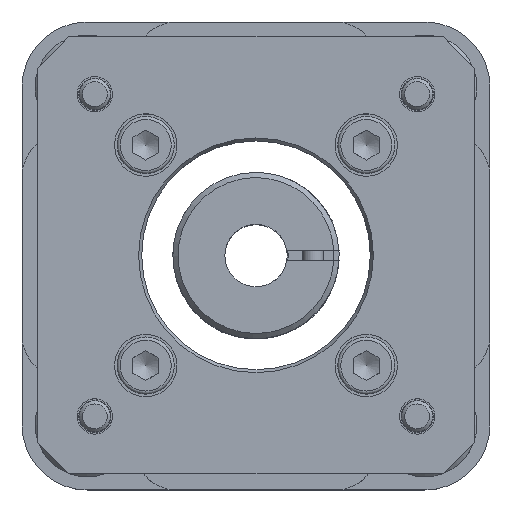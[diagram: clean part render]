
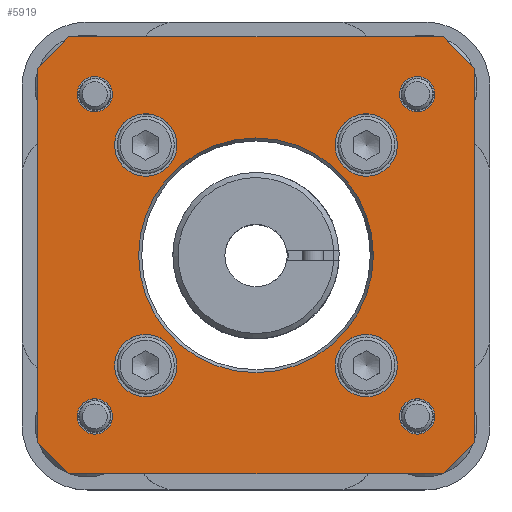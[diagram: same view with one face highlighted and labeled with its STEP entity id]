
A CAD part, top view. The second image highlights one B-rep face of the part: STEP entity #5919.
In plain terms, the highlighted planar face has unit normal (0, 0, 1) as drawn and (0, 0, -1) by its records, which use the part's own axes.
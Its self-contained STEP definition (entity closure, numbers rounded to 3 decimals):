
#237=PLANE($,#6531);
#480=LINE($,#9853,#848);
#484=LINE($,#9860,#852);
#487=LINE($,#9866,#855);
#490=LINE($,#9872,#858);
#493=LINE($,#9878,#861);
#496=LINE($,#9884,#864);
#499=LINE($,#9890,#867);
#501=LINE($,#9893,#869);
#848=VECTOR($,#7839,4.243);
#852=VECTOR($,#7845,36.);
#855=VECTOR($,#7850,4.243);
#858=VECTOR($,#7855,36.);
#861=VECTOR($,#7860,4.243);
#864=VECTOR($,#7865,36.);
#867=VECTOR($,#7870,4.243);
#869=VECTOR($,#7874,36.);
#1310=FACE_BOUND($,#2016,.T.);
#1311=FACE_BOUND($,#2017,.T.);
#1312=FACE_BOUND($,#2018,.T.);
#1313=FACE_BOUND($,#2019,.T.);
#1314=FACE_BOUND($,#2020,.T.);
#1315=FACE_BOUND($,#2021,.T.);
#1316=FACE_BOUND($,#2022,.T.);
#1317=FACE_BOUND($,#2023,.T.);
#1318=FACE_BOUND($,#2024,.T.);
#1319=FACE_BOUND($,#2025,.T.);
#2016=EDGE_LOOP($,(#4833));
#2017=EDGE_LOOP($,(#4834));
#2018=EDGE_LOOP($,(#4835));
#2019=EDGE_LOOP($,(#4836));
#2020=EDGE_LOOP($,(#4837));
#2021=EDGE_LOOP($,(#4838));
#2022=EDGE_LOOP($,(#4839));
#2023=EDGE_LOOP($,(#4840));
#2024=EDGE_LOOP($,(#4841));
#2025=EDGE_LOOP($,(#4842,#4843,#4844,#4845,#4846,#4847,#4848,#4849));
#2465=CIRCLE($,#6449,11.289);
#2473=CIRCLE($,#6462,3.);
#2475=CIRCLE($,#6466,3.);
#2479=CIRCLE($,#6473,3.);
#2481=CIRCLE($,#6477,3.);
#2499=CIRCLE($,#6513,1.7);
#2501=CIRCLE($,#6516,1.7);
#2503=CIRCLE($,#6519,1.7);
#2505=CIRCLE($,#6522,1.7);
#2887=VERTEX_POINT($,#9687);
#2892=VERTEX_POINT($,#9705);
#2894=VERTEX_POINT($,#9711);
#2897=VERTEX_POINT($,#9721);
#2899=VERTEX_POINT($,#9727);
#2933=VERTEX_POINT($,#9829);
#2935=VERTEX_POINT($,#9834);
#2937=VERTEX_POINT($,#9839);
#2939=VERTEX_POINT($,#9844);
#2942=VERTEX_POINT($,#9850);
#2943=VERTEX_POINT($,#9852);
#2945=VERTEX_POINT($,#9858);
#2947=VERTEX_POINT($,#9864);
#2949=VERTEX_POINT($,#9870);
#2951=VERTEX_POINT($,#9876);
#2953=VERTEX_POINT($,#9882);
#2955=VERTEX_POINT($,#9888);
#3553=EDGE_CURVE($,#2887,#2887,#2465,.T.);
#3561=EDGE_CURVE($,#2892,#2892,#2473,.T.);
#3563=EDGE_CURVE($,#2894,#2894,#2475,.T.);
#3567=EDGE_CURVE($,#2897,#2897,#2479,.T.);
#3569=EDGE_CURVE($,#2899,#2899,#2481,.T.);
#3619=EDGE_CURVE($,#2933,#2933,#2499,.T.);
#3621=EDGE_CURVE($,#2935,#2935,#2501,.T.);
#3623=EDGE_CURVE($,#2937,#2937,#2503,.T.);
#3625=EDGE_CURVE($,#2939,#2939,#2505,.T.);
#3628=EDGE_CURVE($,#2942,#2943,#480,.T.);
#3632=EDGE_CURVE($,#2945,#2942,#484,.T.);
#3635=EDGE_CURVE($,#2947,#2945,#487,.T.);
#3638=EDGE_CURVE($,#2949,#2947,#490,.T.);
#3641=EDGE_CURVE($,#2951,#2949,#493,.T.);
#3644=EDGE_CURVE($,#2953,#2951,#496,.T.);
#3647=EDGE_CURVE($,#2955,#2953,#499,.T.);
#3649=EDGE_CURVE($,#2943,#2955,#501,.T.);
#4833=ORIENTED_EDGE($,*,*,#3553,.T.);
#4834=ORIENTED_EDGE($,*,*,#3561,.T.);
#4835=ORIENTED_EDGE($,*,*,#3563,.T.);
#4836=ORIENTED_EDGE($,*,*,#3567,.T.);
#4837=ORIENTED_EDGE($,*,*,#3569,.T.);
#4838=ORIENTED_EDGE($,*,*,#3619,.T.);
#4839=ORIENTED_EDGE($,*,*,#3621,.T.);
#4840=ORIENTED_EDGE($,*,*,#3623,.T.);
#4841=ORIENTED_EDGE($,*,*,#3625,.T.);
#4842=ORIENTED_EDGE($,*,*,#3649,.F.);
#4843=ORIENTED_EDGE($,*,*,#3628,.F.);
#4844=ORIENTED_EDGE($,*,*,#3632,.F.);
#4845=ORIENTED_EDGE($,*,*,#3635,.F.);
#4846=ORIENTED_EDGE($,*,*,#3638,.F.);
#4847=ORIENTED_EDGE($,*,*,#3641,.F.);
#4848=ORIENTED_EDGE($,*,*,#3644,.F.);
#4849=ORIENTED_EDGE($,*,*,#3647,.F.);
#5919=ADVANCED_FACE($,(#1310,#1311,#1312,#1313,#1314,#1315,#1316,#1317,
#1318,#1319),#237,.F.);
#6449=AXIS2_PLACEMENT_3D($,#9688,#7655,#7656);
#6462=AXIS2_PLACEMENT_3D($,#9706,#7681,#7682);
#6466=AXIS2_PLACEMENT_3D($,#9712,#7689,#7690);
#6473=AXIS2_PLACEMENT_3D($,#9722,#7703,#7704);
#6477=AXIS2_PLACEMENT_3D($,#9728,#7711,#7712);
#6513=AXIS2_PLACEMENT_3D($,#9830,#7815,#7816);
#6516=AXIS2_PLACEMENT_3D($,#9835,#7821,#7822);
#6519=AXIS2_PLACEMENT_3D($,#9840,#7827,#7828);
#6522=AXIS2_PLACEMENT_3D($,#9845,#7833,#7834);
#6531=AXIS2_PLACEMENT_3D($,#9894,#7875,#7876);
#7655=DIRECTION('center_axis',(0.,0.,1.));
#7656=DIRECTION('ref_axis',(0.,1.,0.));
#7681=DIRECTION('center_axis',(0.,0.,1.));
#7682=DIRECTION('ref_axis',(-0.707,0.707,0.));
#7689=DIRECTION('center_axis',(0.,0.,1.));
#7690=DIRECTION('ref_axis',(-0.707,0.707,0.));
#7703=DIRECTION('center_axis',(0.,0.,1.));
#7704=DIRECTION('ref_axis',(0.707,0.707,0.));
#7711=DIRECTION('center_axis',(0.,0.,1.));
#7712=DIRECTION('ref_axis',(0.707,0.707,0.));
#7815=DIRECTION('center_axis',(0.,0.,1.));
#7816=DIRECTION('ref_axis',(-1.,0.,0.));
#7821=DIRECTION('center_axis',(0.,0.,1.));
#7822=DIRECTION('ref_axis',(-1.,0.,0.));
#7827=DIRECTION('center_axis',(0.,0.,1.));
#7828=DIRECTION('ref_axis',(-1.,0.,0.));
#7833=DIRECTION('center_axis',(0.,0.,1.));
#7834=DIRECTION('ref_axis',(-1.,0.,0.));
#7839=DIRECTION($,(-0.707,-0.707,0.));
#7845=DIRECTION($,(-1.,0.,0.));
#7850=DIRECTION($,(-0.707,0.707,0.));
#7855=DIRECTION($,(0.,1.,0.));
#7860=DIRECTION($,(0.707,0.707,0.));
#7865=DIRECTION($,(1.,0.,0.));
#7870=DIRECTION($,(0.707,-0.707,0.));
#7874=DIRECTION($,(0.,-1.,0.));
#7875=DIRECTION('center_axis',(0.,0.,1.));
#7876=DIRECTION('ref_axis',(1.,0.,0.));
#9687=CARTESIAN_POINT('',(0.,11.289,0.));
#9688=CARTESIAN_POINT('Origin',(0.,0.,0.));
#9705=CARTESIAN_POINT('',(8.485,-8.485,0.));
#9706=CARTESIAN_POINT('Origin',(10.607,-10.607,0.));
#9711=CARTESIAN_POINT('',(-12.728,12.728,0.));
#9712=CARTESIAN_POINT('Origin',(-10.607,10.607,0.));
#9721=CARTESIAN_POINT('',(-8.485,-8.485,0.));
#9722=CARTESIAN_POINT('Origin',(-10.607,-10.607,0.));
#9727=CARTESIAN_POINT('',(12.728,12.728,0.));
#9728=CARTESIAN_POINT('Origin',(10.607,10.607,0.));
#9829=CARTESIAN_POINT('',(-13.8,-15.5,0.));
#9830=CARTESIAN_POINT('Origin',(-15.5,-15.5,0.));
#9834=CARTESIAN_POINT('',(-13.8,15.5,0.));
#9835=CARTESIAN_POINT('Origin',(-15.5,15.5,0.));
#9839=CARTESIAN_POINT('',(17.2,-15.5,0.));
#9840=CARTESIAN_POINT('Origin',(15.5,-15.5,0.));
#9844=CARTESIAN_POINT('',(17.2,15.5,0.));
#9845=CARTESIAN_POINT('Origin',(15.5,15.5,0.));
#9850=CARTESIAN_POINT('',(-18.,21.,0.));
#9852=CARTESIAN_POINT('',(-21.,18.,0.));
#9853=CARTESIAN_POINT($,(-18.,21.,0.));
#9858=CARTESIAN_POINT('',(18.,21.,0.));
#9860=CARTESIAN_POINT($,(18.,21.,0.));
#9864=CARTESIAN_POINT('',(21.,18.,0.));
#9866=CARTESIAN_POINT($,(21.,18.,0.));
#9870=CARTESIAN_POINT('',(21.,-18.,0.));
#9872=CARTESIAN_POINT($,(21.,-18.,0.));
#9876=CARTESIAN_POINT('',(18.,-21.,0.));
#9878=CARTESIAN_POINT($,(18.,-21.,0.));
#9882=CARTESIAN_POINT('',(-18.,-21.,0.));
#9884=CARTESIAN_POINT($,(-18.,-21.,0.));
#9888=CARTESIAN_POINT('',(-21.,-18.,0.));
#9890=CARTESIAN_POINT($,(-21.,-18.,0.));
#9893=CARTESIAN_POINT($,(-21.,18.,0.));
#9894=CARTESIAN_POINT('Origin',(0.,0.,
0.));
